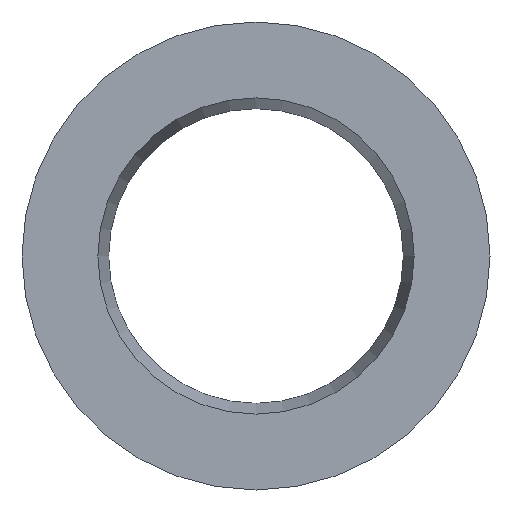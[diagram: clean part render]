
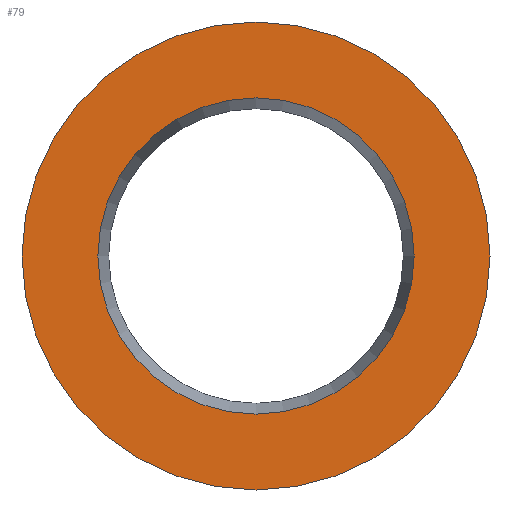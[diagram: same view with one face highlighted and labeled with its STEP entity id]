
A CAD part, front view. The second image highlights one B-rep face of the part: STEP entity #79.
In plain terms, the highlighted planar face has unit normal (0, -1, 0).
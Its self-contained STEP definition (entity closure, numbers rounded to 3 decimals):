
#79 = ADVANCED_FACE( '', ( #94, #95 ), #96, .T. );
#94 = FACE_OUTER_BOUND( '', #112, .T. );
#95 = FACE_BOUND( '', #113, .T. );
#96 = PLANE( '', #114 );
#112 = EDGE_LOOP( '', ( #138 ) );
#113 = EDGE_LOOP( '', ( #139 ) );
#114 = AXIS2_PLACEMENT_3D( '', #140, #141, #142 );
#138 = ORIENTED_EDGE( '', *, *, #153, .T. );
#139 = ORIENTED_EDGE( '', *, *, #152, .F. );
#140 = CARTESIAN_POINT( '', ( 5., 0., 0. ) );
#141 = DIRECTION( '', ( 0., -1., 0. ) );
#142 = DIRECTION( '', ( 0., 0., -1. ) );
#152 = EDGE_CURVE( '', #162, #162, #163, .T. );
#153 = EDGE_CURVE( '', #164, #164, #165, .T. );
#162 = VERTEX_POINT( '', #174 );
#163 = CIRCLE( '', #175, 5. );
#164 = VERTEX_POINT( '', #176 );
#165 = CIRCLE( '', #177, 7.4 );
#174 = CARTESIAN_POINT( '', ( 0., 0., -5. ) );
#175 = AXIS2_PLACEMENT_3D( '', #190, #191, #192 );
#176 = CARTESIAN_POINT( '', ( 0., 0., -7.4 ) );
#177 = AXIS2_PLACEMENT_3D( '', #193, #194, #195 );
#190 = CARTESIAN_POINT( '', ( 0., 0., 0. ) );
#191 = DIRECTION( '', ( 0., -1., 0. ) );
#192 = DIRECTION( '', ( 0., 0., -1. ) );
#193 = CARTESIAN_POINT( '', ( 0., 0., 0. ) );
#194 = DIRECTION( '', ( 0., -1., 0. ) );
#195 = DIRECTION( '', ( 0., 0., -1. ) );
